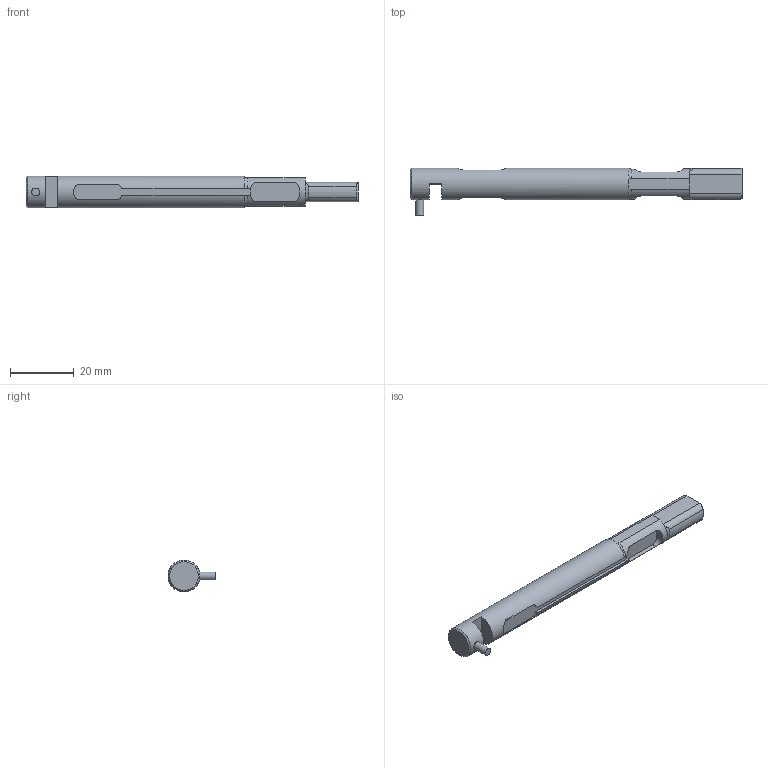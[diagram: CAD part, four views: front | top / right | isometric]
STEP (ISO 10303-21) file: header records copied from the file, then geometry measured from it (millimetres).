
FILE_DESCRIPTION(/* description */ ('Alibre Inc.'),/* implementation_level */ '2;1');
FILE_NAME(/* name */ 'export0',/* time_stamp */ '2012-01-12T18:13:34+01:00',/* author */ (''),/* organization */ (''),/* preprocessor_version */ 'ST-DEVELOPER v10',/* originating_system */ 'Alibre',/* authorisation */ '');
FILE_SCHEMA (('CONFIG_CONTROL_DESIGN'));
Length unit declared in the file: centimetre
Products named in the file (2): ID_1
Bounding box: 104 x 15 x 10 mm (x, y, z)
Volume: 6808.1 mm3; surface area: 3735.7 mm2
Topology: 1 solids, 1 shells, 72 faces, 198 edges, 129 vertices
Faces by surface type: plane 37, cylinder 27, torus 6, cone 2
Full cylindrical faces by diameter (mm): 2.5 x1, 10 x1
Entity records: 3053 total; most frequent: CARTESIAN_POINT 1189, ORIENTED_EDGE 384, DIRECTION 285, EDGE_CURVE 192, VERTEX_POINT 127, AXIS2_PLACEMENT_3D 112, VECTOR 101, LINE 101
